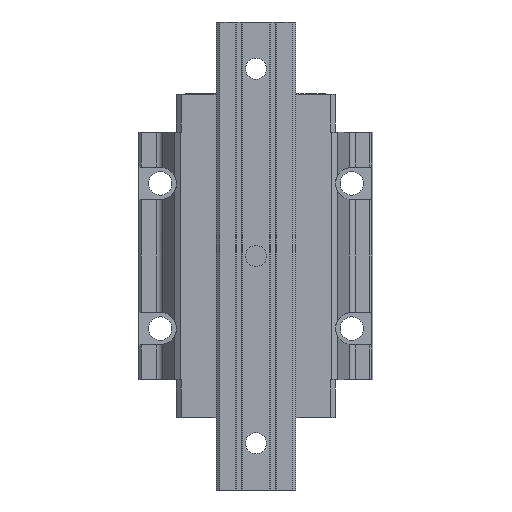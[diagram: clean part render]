
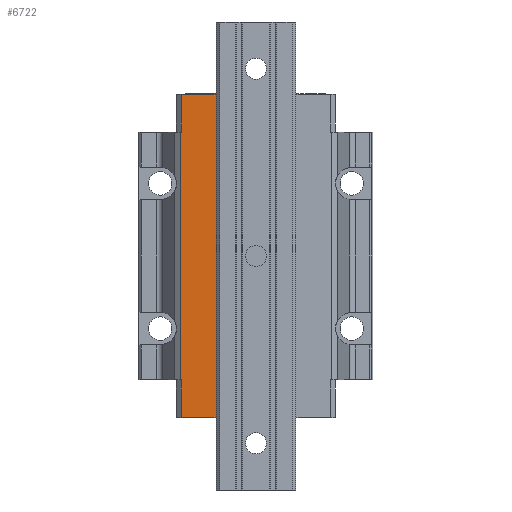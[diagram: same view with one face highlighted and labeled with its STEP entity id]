
A CAD part, front view. The second image highlights one B-rep face of the part: STEP entity #6722.
In plain terms, the highlighted planar face has unit normal (0, -1, 0).
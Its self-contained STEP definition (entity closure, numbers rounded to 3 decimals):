
#151=DIRECTION('',(1.,0.,0.));
#152=VECTOR('',#151,0.365);
#153=CARTESIAN_POINT('',(-32.366,-21.5,-52.9));
#154=LINE('',#153,#152);
#159=DIRECTION('',(0.,0.,-1.));
#160=VECTOR('',#159,16.2);
#161=CARTESIAN_POINT('',(-32.001,-21.5,-52.9));
#162=LINE('',#161,#160);
#163=DIRECTION('',(0.,0.,1.));
#164=VECTOR('',#163,105.8);
#165=CARTESIAN_POINT('',(-32.366,-21.5,-52.9));
#166=LINE('',#165,#164);
#167=DIRECTION('',(0.,0.,1.));
#168=VECTOR('',#167,16.2);
#169=CARTESIAN_POINT('',(-32.001,-21.5,52.9));
#170=LINE('',#169,#168);
#171=DIRECTION('',(0.,0.,1.));
#172=VECTOR('',#171,138.2);
#173=CARTESIAN_POINT('',(-16.641,-21.5,-69.1));
#174=LINE('',#173,#172);
#311=DIRECTION('',(1.,0.,0.));
#312=VECTOR('',#311,15.359);
#313=CARTESIAN_POINT('',(-32.001,-21.5,-69.1));
#314=LINE('',#313,#312);
#607=DIRECTION('',(1.,0.,0.));
#608=VECTOR('',#607,15.359);
#609=CARTESIAN_POINT('',(-32.001,-21.5,69.1));
#610=LINE('',#609,#608);
#1815=DIRECTION('',(1.,0.,0.));
#1816=VECTOR('',#1815,0.365);
#1817=CARTESIAN_POINT('',(-32.366,-21.5,52.9));
#1818=LINE('',#1817,#1816);
#5175=CARTESIAN_POINT('',(-32.366,-21.5,-52.9));
#5176=VERTEX_POINT('',#5175);
#5227=CARTESIAN_POINT('',(-32.366,-21.5,52.9));
#5228=VERTEX_POINT('',#5227);
#5246=CARTESIAN_POINT('',(-32.001,-21.5,69.1));
#5248=VERTEX_POINT('',#5246);
#5249=CARTESIAN_POINT('',(-16.641,-21.5,69.1));
#5250=VERTEX_POINT('',#5249);
#5318=CARTESIAN_POINT('',(-32.001,-21.5,52.9));
#5320=VERTEX_POINT('',#5318);
#5342=CARTESIAN_POINT('',(-32.001,-21.5,-69.1));
#5344=VERTEX_POINT('',#5342);
#5345=CARTESIAN_POINT('',(-16.641,-21.5,-69.1));
#5346=VERTEX_POINT('',#5345);
#5414=CARTESIAN_POINT('',(-32.001,-21.5,-52.9));
#5416=VERTEX_POINT('',#5414);
#6701=CARTESIAN_POINT('',(-32.366,-21.5,-52.9));
#6702=DIRECTION('',(0.,-1.,0.));
#6703=DIRECTION('',(1.,0.,0.));
#6704=AXIS2_PLACEMENT_3D('',#6701,#6702,#6703);
#6705=PLANE('',#6704);
#6707=ORIENTED_EDGE('',*,*,#6706,.F.);
#6709=ORIENTED_EDGE('',*,*,#6708,.F.);
#6710=ORIENTED_EDGE('',*,*,#6692,.F.);
#6711=ORIENTED_EDGE('',*,*,#6681,.F.);
#6713=ORIENTED_EDGE('',*,*,#6712,.T.);
#6715=ORIENTED_EDGE('',*,*,#6714,.T.);
#6717=ORIENTED_EDGE('',*,*,#6716,.T.);
#6719=ORIENTED_EDGE('',*,*,#6718,.T.);
#6720=EDGE_LOOP('',(#6707,#6709,#6710,#6711,#6713,#6715,#6717,#6719));
#6721=FACE_OUTER_BOUND('',#6720,.F.);
#6722=ADVANCED_FACE('',(#6721),#6705,.T.);
#6681=EDGE_CURVE('',#5176,#5416,#154,.T.);
#6692=EDGE_CURVE('',#5416,#5344,#162,.T.);
#6706=EDGE_CURVE('',#5346,#5250,#174,.T.);
#6708=EDGE_CURVE('',#5344,#5346,#314,.T.);
#6712=EDGE_CURVE('',#5176,#5228,#166,.T.);
#6714=EDGE_CURVE('',#5228,#5320,#1818,.T.);
#6716=EDGE_CURVE('',#5320,#5248,#170,.T.);
#6718=EDGE_CURVE('',#5248,#5250,#610,.T.);
